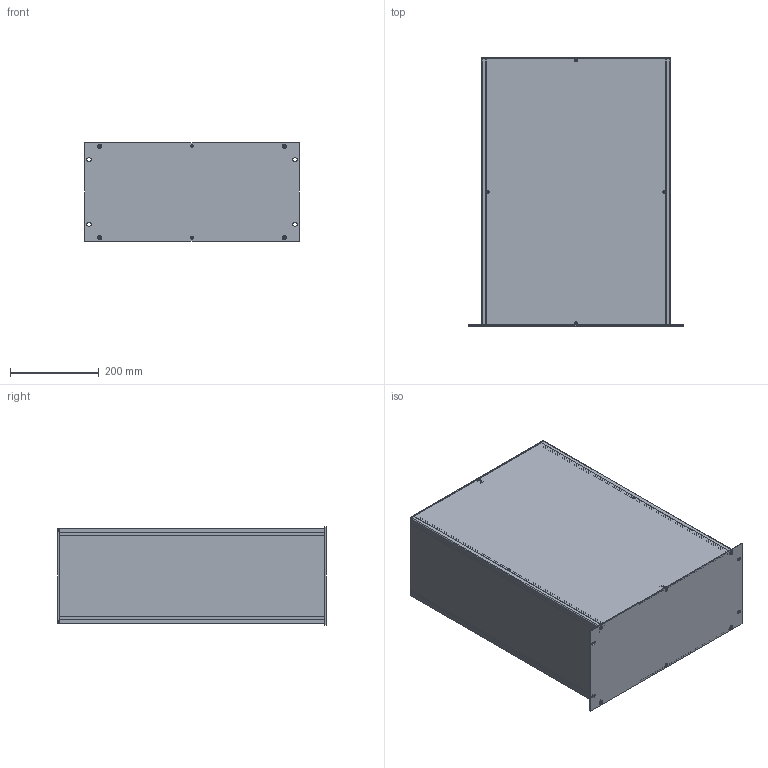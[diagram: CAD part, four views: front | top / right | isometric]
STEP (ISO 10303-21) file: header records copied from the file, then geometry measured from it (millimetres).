
FILE_DESCRIPTION(/* description */ (''),/* implementation_level */ '2;1');
FILE_NAME(/* name */ '//diskstation/Kunden/Gehäuse/Gehäuse/5HE/step/19 Zoll 5HE Rack Gehäuse Tiefe-600.step',/* time_stamp */ '2022-02-17T16:23:18+01:00',/* author */ (''),/* organization */ (''),/* preprocessor_version */ 'ST-DEVELOPER v18.1',/* originating_system */ 'Autodesk Translation Framework v10.10.0.1391',/* authorisation */ '');
FILE_SCHEMA (('AUTOMOTIVE_DESIGN { 1 0 10303 214 3 1 1 }'));
Length unit declared in the file: millimetre
Products named in the file (28): 5HE Gehäuse mit parametern; Gehäuse; Gehäuseprofil 1 unten links; Gehäuseprofil 2 oben rechts; Gehäuseprofil 1 unten rechts; Gehäuseprofil 2 oben links; Rückplatte; Deckel; Seitenteil links; Seitenteil rechts; Bodenplatte; Montageklotz Front/Deckel; Montageklotz Front/Boden; Montageklotz Rück/Deckel; Montageklotz Rück/Boden; Gewindestreifen; Frontplatte; Schrauben M5; Schraube Front; Schraube Front (1); Schraube Front (2); Schraube Front (3); Schraube Rück (1); Schraube Rück; Schraube Rück (2); Schraube Rück (3); Schrauben M3; HI_Senkschraube DIN 965 A v2 M3x5 24677.030.005(High)
Assembly tree (37 placements, depth 3):
  5HE Gehäuse mit parametern
    Gehäuse
      Gehäuseprofil 1 unten links
      Gehäuseprofil 2 oben rechts
      Gehäuseprofil 1 unten rechts
      Gehäuseprofil 2 oben links
      Rückplatte
      Deckel
      Seitenteil links
      Seitenteil rechts
      Bodenplatte
      Montageklotz Front/Deckel
      Montageklotz Front/Boden
      Montageklotz Rück/Deckel
      Montageklotz Rück/Boden
      Gewindestreifen  x2
    Frontplatte
    Schrauben M5
      Schraube Front
      Schraube Front (1)
      Schraube Front (2)
      Schraube Front (3)
      Schraube Rück (1)
      Schraube Rück
      Schraube Rück (2)
      Schraube Rück (3)
    Schrauben M3
      HI_Senkschraube DIN 965 A v2 M3x5 24677.030.005(High)  x10
Bounding box: 483 x 608.2 x 221.4 mm (x, y, z)
Volume: 2424640.8 mm3; surface area: 2111560.5 mm2
Topology: 34 solids, 34 shells, 944 faces, 2346 edges, 1470 vertices
Faces by surface type: cylinder 422, plane 342, cone 164, torus 8, bspline 8
Full cylindrical faces by diameter (mm): 2.529 x180, 3 x10, 3.2 x10, 4.234 x40, 5 x8, 5.2 x4, 5.3 x8, 5.6 x10, 9.5 x8
Entity records: 18600 total; most frequent: CARTESIAN_POINT 3348, DIRECTION 3135, ORIENTED_EDGE 2760, EDGE_CURVE 1380, AXIS2_PLACEMENT_3D 1195, VERTEX_POINT 868, EDGE_LOOP 866, LINE 745
